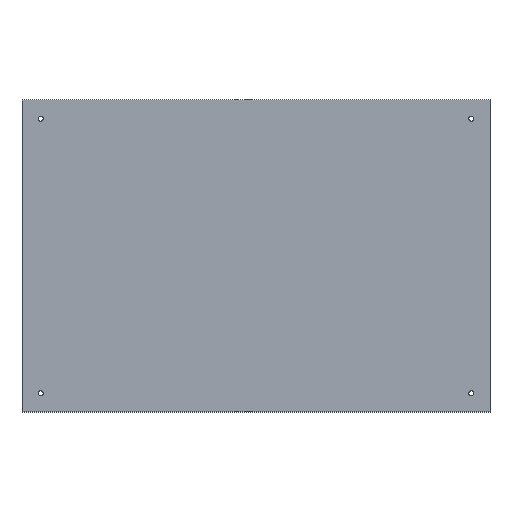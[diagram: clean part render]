
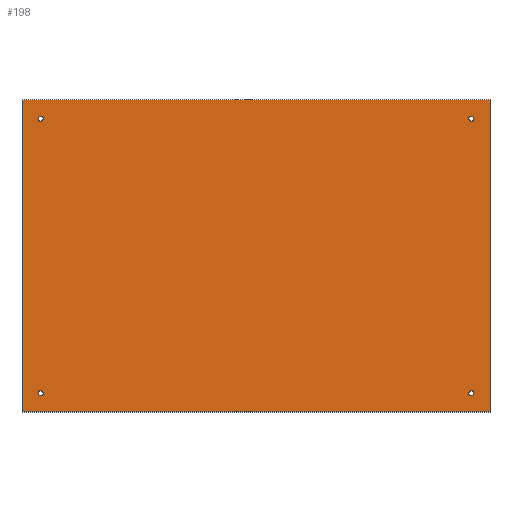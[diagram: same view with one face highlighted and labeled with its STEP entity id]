
A CAD part, top view. The second image highlights one B-rep face of the part: STEP entity #198.
In plain terms, the highlighted planar face has unit normal (0, 0, 1).
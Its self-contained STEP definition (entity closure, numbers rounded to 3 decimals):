
#42 = VERTEX_POINT('',#43);
#43 = CARTESIAN_POINT('',(300.,-200.,1.51));
#49 = EDGE_CURVE('',#42,#50,#52,.T.);
#50 = VERTEX_POINT('',#51);
#51 = CARTESIAN_POINT('',(0.,-200.,1.51));
#52 = LINE('',#53,#54);
#53 = CARTESIAN_POINT('',(300.,-200.,1.51));
#54 = VECTOR('',#55,1.);
#55 = DIRECTION('',(-1.,0.,0.));
#82 = VERTEX_POINT('',#83);
#83 = CARTESIAN_POINT('',(300.,0.,1.51));
#89 = EDGE_CURVE('',#82,#42,#90,.T.);
#90 = LINE('',#91,#92);
#91 = CARTESIAN_POINT('',(300.,0.,1.51));
#92 = VECTOR('',#93,1.);
#93 = DIRECTION('',(0.,-1.,0.));
#111 = EDGE_CURVE('',#50,#112,#114,.T.);
#112 = VERTEX_POINT('',#113);
#113 = CARTESIAN_POINT('',(0.,0.,1.51));
#114 = LINE('',#115,#116);
#115 = CARTESIAN_POINT('',(0.,-200.,1.51));
#116 = VECTOR('',#117,1.);
#117 = DIRECTION('',(0.,1.,0.));
#198 = ADVANCED_FACE('',(#199,#210,#221,#232,#243),#254,.T.);
#199 = FACE_BOUND('',#200,.T.);
#200 = EDGE_LOOP('',(#201,#202,#203,#209));
#201 = ORIENTED_EDGE('',*,*,#49,.F.);
#202 = ORIENTED_EDGE('',*,*,#89,.F.);
#203 = ORIENTED_EDGE('',*,*,#204,.F.);
#204 = EDGE_CURVE('',#112,#82,#205,.T.);
#205 = LINE('',#206,#207);
#206 = CARTESIAN_POINT('',(0.,0.,1.51));
#207 = VECTOR('',#208,1.);
#208 = DIRECTION('',(1.,0.,0.));
#209 = ORIENTED_EDGE('',*,*,#111,.F.);
#210 = FACE_BOUND('',#211,.T.);
#211 = EDGE_LOOP('',(#212));
#212 = ORIENTED_EDGE('',*,*,#213,.T.);
#213 = EDGE_CURVE('',#214,#214,#216,.T.);
#214 = VERTEX_POINT('',#215);
#215 = CARTESIAN_POINT('',(12.,-189.6,1.51));
#216 = CIRCLE('',#217,1.6);
#217 = AXIS2_PLACEMENT_3D('',#218,#219,#220);
#218 = CARTESIAN_POINT('',(12.,-188.,1.51));
#219 = DIRECTION('',(-0.,0.,-1.));
#220 = DIRECTION('',(-0.,-1.,0.));
#221 = FACE_BOUND('',#222,.T.);
#222 = EDGE_LOOP('',(#223));
#223 = ORIENTED_EDGE('',*,*,#224,.T.);
#224 = EDGE_CURVE('',#225,#225,#227,.T.);
#225 = VERTEX_POINT('',#226);
#226 = CARTESIAN_POINT('',(288.,-189.6,1.51));
#227 = CIRCLE('',#228,1.6);
#228 = AXIS2_PLACEMENT_3D('',#229,#230,#231);
#229 = CARTESIAN_POINT('',(288.,-188.,1.51));
#230 = DIRECTION('',(-0.,0.,-1.));
#231 = DIRECTION('',(-0.,-1.,0.));
#232 = FACE_BOUND('',#233,.T.);
#233 = EDGE_LOOP('',(#234));
#234 = ORIENTED_EDGE('',*,*,#235,.T.);
#235 = EDGE_CURVE('',#236,#236,#238,.T.);
#236 = VERTEX_POINT('',#237);
#237 = CARTESIAN_POINT('',(12.,-13.6,1.51));
#238 = CIRCLE('',#239,1.6);
#239 = AXIS2_PLACEMENT_3D('',#240,#241,#242);
#240 = CARTESIAN_POINT('',(12.,-12.,1.51));
#241 = DIRECTION('',(-0.,0.,-1.));
#242 = DIRECTION('',(-0.,-1.,0.));
#243 = FACE_BOUND('',#244,.T.);
#244 = EDGE_LOOP('',(#245));
#245 = ORIENTED_EDGE('',*,*,#246,.T.);
#246 = EDGE_CURVE('',#247,#247,#249,.T.);
#247 = VERTEX_POINT('',#248);
#248 = CARTESIAN_POINT('',(288.,-13.6,1.51));
#249 = CIRCLE('',#250,1.6);
#250 = AXIS2_PLACEMENT_3D('',#251,#252,#253);
#251 = CARTESIAN_POINT('',(288.,-12.,1.51));
#252 = DIRECTION('',(-0.,0.,-1.));
#253 = DIRECTION('',(-0.,-1.,0.));
#254 = PLANE('',#255);
#255 = AXIS2_PLACEMENT_3D('',#256,#257,#258);
#256 = CARTESIAN_POINT('',(0.,0.,1.51));
#257 = DIRECTION('',(0.,0.,1.));
#258 = DIRECTION('',(1.,0.,-0.));
